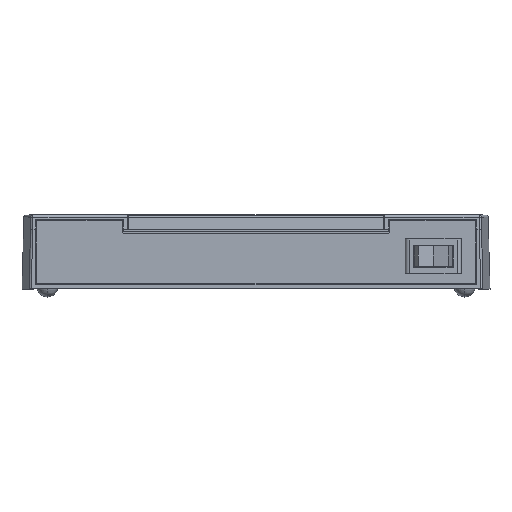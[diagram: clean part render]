
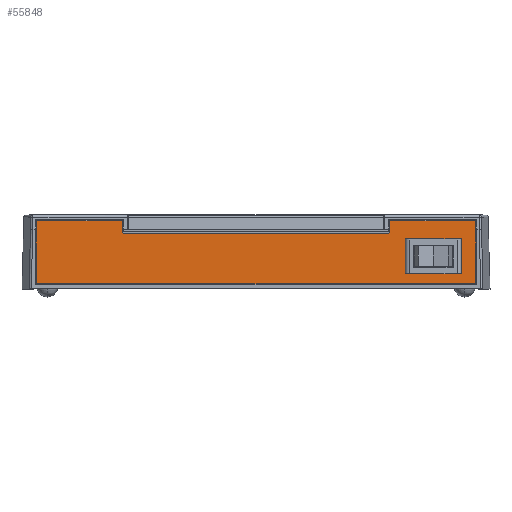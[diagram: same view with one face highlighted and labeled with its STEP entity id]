
A CAD part, top view. The second image highlights one B-rep face of the part: STEP entity #55848.
In plain terms, the highlighted planar face has unit normal (0, 0, 1).
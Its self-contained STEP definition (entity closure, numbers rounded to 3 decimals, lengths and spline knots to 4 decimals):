
#29008=DIRECTION('',(1.,0.,0.));
#29009=VECTOR('',#29008,0.986);
#29010=CARTESIAN_POINT('',(2.632,0.866,2.8425));
#29011=LINE('',#29010,#29009);
#29034=DIRECTION('',(0.,1.,0.));
#29035=VECTOR('',#29034,1.07);
#29036=CARTESIAN_POINT('',(3.87,0.1,2.8425));
#29037=LINE('',#29036,#29035);
#29038=DIRECTION('',(1.,0.,0.));
#29039=VECTOR('',#29038,7.7);
#29040=CARTESIAN_POINT('',(-3.85,0.08,2.8425));
#29041=LINE('',#29040,#29039);
#29042=DIRECTION('',(0.,-1.,0.));
#29043=VECTOR('',#29042,1.07);
#29044=CARTESIAN_POINT('',(-3.87,1.17,2.8425));
#29045=LINE('',#29044,#29043);
#29046=DIRECTION('',(-1.,0.,0.));
#29047=VECTOR('',#29046,1.475);
#29048=CARTESIAN_POINT('',(-2.375,1.19,2.8425));
#29049=LINE('',#29048,#29047);
#29050=DIRECTION('',(0.,1.,0.));
#29051=VECTOR('',#29050,0.18);
#29052=CARTESIAN_POINT('',(-2.355,0.99,2.8425));
#29053=LINE('',#29052,#29051);
#29054=DIRECTION('',(-1.,0.,0.));
#29055=VECTOR('',#29054,4.67);
#29056=CARTESIAN_POINT('',(2.335,0.97,2.8425));
#29057=LINE('',#29056,#29055);
#29058=DIRECTION('',(0.,-1.,0.));
#29059=VECTOR('',#29058,0.18);
#29060=CARTESIAN_POINT('',(2.355,1.17,2.8425));
#29061=LINE('',#29060,#29059);
#29062=DIRECTION('',(-1.,0.,0.));
#29063=VECTOR('',#29062,1.475);
#29064=CARTESIAN_POINT('',(3.85,1.19,2.8425));
#29065=LINE('',#29064,#29063);
#29070=CARTESIAN_POINT('',(3.85,1.17,2.8425));
#29071=DIRECTION('',(0.,0.,1.));
#29072=DIRECTION('',(1.,0.,0.));
#29073=AXIS2_PLACEMENT_3D('',#29070,#29071,#29072);
#29902=CARTESIAN_POINT('',(-2.335,0.99,2.8425));
#29903=DIRECTION('',(0.,0.,-1.));
#29904=DIRECTION('',(0.,-1.,0.));
#29905=AXIS2_PLACEMENT_3D('',#29902,#29903,#29904);
#29915=CARTESIAN_POINT('',(2.335,0.99,2.8425));
#29916=DIRECTION('',(0.,0.,-1.));
#29917=DIRECTION('',(1.,0.,0.));
#29918=AXIS2_PLACEMENT_3D('',#29915,#29916,#29917);
#29928=CARTESIAN_POINT('',(2.375,1.17,2.8425));
#29929=DIRECTION('',(0.,0.,1.));
#29930=DIRECTION('',(0.,1.,0.));
#29931=AXIS2_PLACEMENT_3D('',#29928,#29929,#29930);
#29941=CARTESIAN_POINT('',(-2.375,1.17,2.8425));
#29942=DIRECTION('',(0.,0.,1.));
#29943=DIRECTION('',(1.,0.,0.));
#29944=AXIS2_PLACEMENT_3D('',#29941,#29942,#29943);
#29954=CARTESIAN_POINT('',(-3.85,1.17,2.8425));
#29955=DIRECTION('',(0.,0.,1.));
#29956=DIRECTION('',(0.,1.,0.));
#29957=AXIS2_PLACEMENT_3D('',#29954,#29955,#29956);
#29967=CARTESIAN_POINT('',(-3.85,0.1,2.8425));
#29968=DIRECTION('',(0.,0.,1.));
#29969=DIRECTION('',(-1.,0.,0.));
#29970=AXIS2_PLACEMENT_3D('',#29967,#29968,#29969);
#29980=CARTESIAN_POINT('',(3.85,0.1,2.8425));
#29981=DIRECTION('',(0.,0.,1.));
#29982=DIRECTION('',(0.,-1.,0.));
#29983=AXIS2_PLACEMENT_3D('',#29980,#29981,#29982);
#29989=DIRECTION('',(0.,-1.,0.));
#29990=VECTOR('',#29989,0.615);
#29991=CARTESIAN_POINT('',(2.632,0.866,2.8425));
#29992=LINE('',#29991,#29990);
#30001=DIRECTION('',(1.,0.,0.));
#30002=VECTOR('',#30001,0.986);
#30003=CARTESIAN_POINT('',(2.632,0.251,2.8425));
#30004=LINE('',#30003,#30002);
#30031=DIRECTION('',(0.,-1.,0.));
#30032=VECTOR('',#30031,0.615);
#30033=CARTESIAN_POINT('',(3.618,0.866,2.8425));
#30034=LINE('',#30033,#30032);
#41072=CARTESIAN_POINT('',(2.335,0.97,2.8425));
#41073=CARTESIAN_POINT('',(-2.335,0.97,2.8425));
#41074=VERTEX_POINT('',#41072);
#41075=VERTEX_POINT('',#41073);
#41076=CARTESIAN_POINT('',(2.355,0.99,2.8425));
#41077=VERTEX_POINT('',#41076);
#41078=CARTESIAN_POINT('',(-2.355,0.99,2.8425));
#41079=VERTEX_POINT('',#41078);
#41080=CARTESIAN_POINT('',(3.87,1.17,2.8425));
#41081=CARTESIAN_POINT('',(3.85,1.19,2.8425));
#41082=VERTEX_POINT('',#41080);
#41083=VERTEX_POINT('',#41081);
#41084=CARTESIAN_POINT('',(3.85,0.08,2.8425));
#41085=CARTESIAN_POINT('',(3.87,0.1,2.8425));
#41086=VERTEX_POINT('',#41084);
#41087=VERTEX_POINT('',#41085);
#41088=CARTESIAN_POINT('',(2.375,1.19,2.8425));
#41089=CARTESIAN_POINT('',(2.355,1.17,2.8425));
#41090=VERTEX_POINT('',#41088);
#41091=VERTEX_POINT('',#41089);
#41092=CARTESIAN_POINT('',(-2.355,1.17,2.8425));
#41093=CARTESIAN_POINT('',(-2.375,1.19,2.8425));
#41094=VERTEX_POINT('',#41092);
#41095=VERTEX_POINT('',#41093);
#41096=CARTESIAN_POINT('',(-3.85,1.19,2.8425));
#41097=CARTESIAN_POINT('',(-3.87,1.17,2.8425));
#41098=VERTEX_POINT('',#41096);
#41099=VERTEX_POINT('',#41097);
#41100=CARTESIAN_POINT('',(-3.87,0.1,2.8425));
#41101=CARTESIAN_POINT('',(-3.85,0.08,2.8425));
#41102=VERTEX_POINT('',#41100);
#41103=VERTEX_POINT('',#41101);
#41136=CARTESIAN_POINT('',(2.632,0.866,2.8425));
#41137=CARTESIAN_POINT('',(3.618,0.866,2.8425));
#41138=VERTEX_POINT('',#41136);
#41139=VERTEX_POINT('',#41137);
#41140=CARTESIAN_POINT('',(2.632,0.251,2.8425));
#41141=CARTESIAN_POINT('',(3.618,0.251,2.8425));
#41142=VERTEX_POINT('',#41140);
#41143=VERTEX_POINT('',#41141);
#55800=CARTESIAN_POINT('',(0.,0.97,2.8425));
#55801=DIRECTION('',(0.,0.,1.));
#55802=DIRECTION('',(1.,0.,0.));
#55803=AXIS2_PLACEMENT_3D('',#55800,#55801,#55802);
#55804=PLANE('',#55803);
#55806=ORIENTED_EDGE('',*,*,#55805,.F.);
#55808=ORIENTED_EDGE('',*,*,#55807,.F.);
#55810=ORIENTED_EDGE('',*,*,#55809,.F.);
#55812=ORIENTED_EDGE('',*,*,#55811,.F.);
#55814=ORIENTED_EDGE('',*,*,#55813,.F.);
#55816=ORIENTED_EDGE('',*,*,#55815,.F.);
#55818=ORIENTED_EDGE('',*,*,#55817,.F.);
#55820=ORIENTED_EDGE('',*,*,#55819,.F.);
#55822=ORIENTED_EDGE('',*,*,#55821,.F.);
#55824=ORIENTED_EDGE('',*,*,#55823,.F.);
#55826=ORIENTED_EDGE('',*,*,#55825,.F.);
#55828=ORIENTED_EDGE('',*,*,#55827,.F.);
#55830=ORIENTED_EDGE('',*,*,#55829,.F.);
#55832=ORIENTED_EDGE('',*,*,#55831,.F.);
#55834=ORIENTED_EDGE('',*,*,#55833,.F.);
#55836=ORIENTED_EDGE('',*,*,#55835,.F.);
#55837=EDGE_LOOP('',(#55806,#55808,#55810,#55812,#55814,#55816,#55818,#55820,
#55822,#55824,#55826,#55828,#55830,#55832,#55834,#55836));
#55838=FACE_OUTER_BOUND('',#55837,.F.);
#55839=ORIENTED_EDGE('',*,*,#55786,.F.);
#55841=ORIENTED_EDGE('',*,*,#55840,.T.);
#55843=ORIENTED_EDGE('',*,*,#55842,.T.);
#55845=ORIENTED_EDGE('',*,*,#55844,.F.);
#55846=EDGE_LOOP('',(#55839,#55841,#55843,#55845));
#55847=FACE_BOUND('',#55846,.F.);
#55848=ADVANCED_FACE('',(#55838,#55847),#55804,.T.);
#29074=CIRCLE('',#29073,0.02);
#29906=CIRCLE('',#29905,0.02);
#29919=CIRCLE('',#29918,0.02);
#29932=CIRCLE('',#29931,0.02);
#29945=CIRCLE('',#29944,0.02);
#29958=CIRCLE('',#29957,0.02);
#29971=CIRCLE('',#29970,0.02);
#29984=CIRCLE('',#29983,0.02);
#55786=EDGE_CURVE('',#41138,#41139,#29011,.T.);
#55805=EDGE_CURVE('',#41082,#41083,#29074,.T.);
#55807=EDGE_CURVE('',#41087,#41082,#29037,.T.);
#55809=EDGE_CURVE('',#41086,#41087,#29984,.T.);
#55811=EDGE_CURVE('',#41103,#41086,#29041,.T.);
#55813=EDGE_CURVE('',#41102,#41103,#29971,.T.);
#55815=EDGE_CURVE('',#41099,#41102,#29045,.T.);
#55817=EDGE_CURVE('',#41098,#41099,#29958,.T.);
#55819=EDGE_CURVE('',#41095,#41098,#29049,.T.);
#55821=EDGE_CURVE('',#41094,#41095,#29945,.T.);
#55823=EDGE_CURVE('',#41079,#41094,#29053,.T.);
#55825=EDGE_CURVE('',#41075,#41079,#29906,.T.);
#55827=EDGE_CURVE('',#41074,#41075,#29057,.T.);
#55829=EDGE_CURVE('',#41077,#41074,#29919,.T.);
#55831=EDGE_CURVE('',#41091,#41077,#29061,.T.);
#55833=EDGE_CURVE('',#41090,#41091,#29932,.T.);
#55835=EDGE_CURVE('',#41083,#41090,#29065,.T.);
#55840=EDGE_CURVE('',#41138,#41142,#29992,.T.);
#55842=EDGE_CURVE('',#41142,#41143,#30004,.T.);
#55844=EDGE_CURVE('',#41139,#41143,#30034,.T.);
